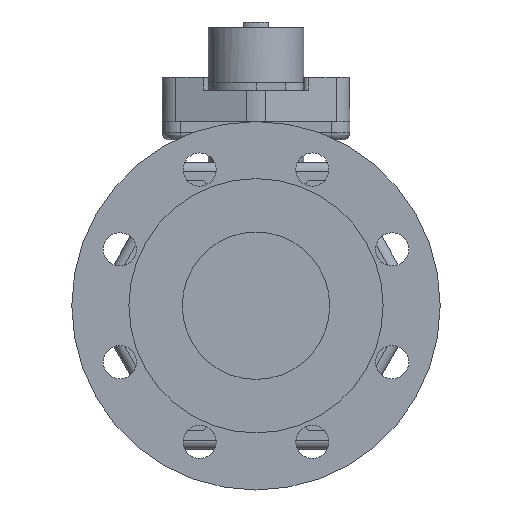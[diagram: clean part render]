
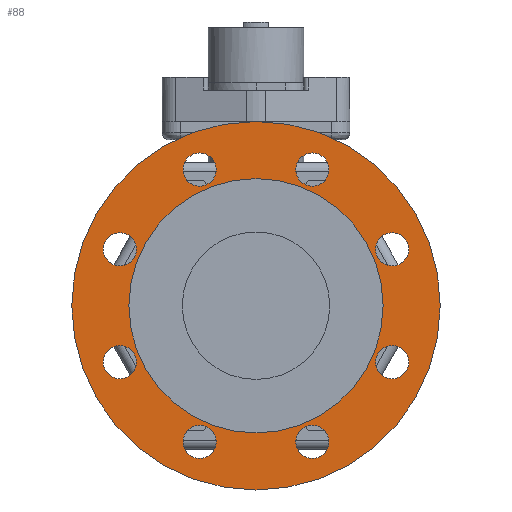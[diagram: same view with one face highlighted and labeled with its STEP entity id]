
A CAD part, left-side view. The second image highlights one B-rep face of the part: STEP entity #88.
In plain terms, the highlighted planar face has unit normal (-1, 0, 0).
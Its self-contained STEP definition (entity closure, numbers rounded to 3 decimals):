
#88=ADVANCED_FACE('',(#482,#483,#484,#485,#486,#487,#488,#489,#490,#491),#481,.T.);
#481=PLANE('',#3071);
#482=FACE_OUTER_BOUND('',#3072,.T.);
#483=FACE_BOUND('',#3073,.T.);
#484=FACE_BOUND('',#3074,.T.);
#485=FACE_BOUND('',#3075,.T.);
#486=FACE_BOUND('',#3076,.T.);
#487=FACE_BOUND('',#3077,.T.);
#488=FACE_BOUND('',#3078,.T.);
#489=FACE_BOUND('',#3079,.T.);
#490=FACE_BOUND('',#3080,.T.);
#491=FACE_BOUND('',#3081,.T.);
#3068=CARTESIAN_POINT('',(-152.5,-183.205,-210.));
#3069=DIRECTION('',(-1.,0.,0.));
#3070=DIRECTION('',(0.,0.,1.));
#3071=AXIS2_PLACEMENT_3D('',#3068,#3069,#3070);
#3072=EDGE_LOOP('',(#4618,#4619));
#3073=EDGE_LOOP('',(#4620,#4621));
#3074=EDGE_LOOP('',(#4622,#4623));
#3075=EDGE_LOOP('',(#4624,#4625));
#3076=EDGE_LOOP('',(#4626,#4627));
#3077=EDGE_LOOP('',(#4628,#4629));
#3078=EDGE_LOOP('',(#4630,#4631));
#3079=EDGE_LOOP('',(#4632,#4633));
#3080=EDGE_LOOP('',(#4634,#4635));
#3081=EDGE_LOOP('',(#4636,#4637));
#4618=ORIENTED_EDGE('',*,*,#5942,.T.);
#4619=ORIENTED_EDGE('',*,*,#5943,.T.);
#4620=ORIENTED_EDGE('',*,*,#5944,.F.);
#4621=ORIENTED_EDGE('',*,*,#5945,.F.);
#4622=ORIENTED_EDGE('',*,*,#5946,.F.);
#4623=ORIENTED_EDGE('',*,*,#5947,.F.);
#4624=ORIENTED_EDGE('',*,*,#5948,.F.);
#4625=ORIENTED_EDGE('',*,*,#5949,.F.);
#4626=ORIENTED_EDGE('',*,*,#5950,.F.);
#4627=ORIENTED_EDGE('',*,*,#5951,.F.);
#4628=ORIENTED_EDGE('',*,*,#5952,.F.);
#4629=ORIENTED_EDGE('',*,*,#5953,.F.);
#4630=ORIENTED_EDGE('',*,*,#5954,.F.);
#4631=ORIENTED_EDGE('',*,*,#5955,.F.);
#4632=ORIENTED_EDGE('',*,*,#5956,.F.);
#4633=ORIENTED_EDGE('',*,*,#5957,.F.);
#4634=ORIENTED_EDGE('',*,*,#5958,.F.);
#4635=ORIENTED_EDGE('',*,*,#5959,.F.);
#4636=ORIENTED_EDGE('',*,*,#5960,.F.);
#4637=ORIENTED_EDGE('',*,*,#5961,.F.);
#5942=EDGE_CURVE('',#7341,#7342,#7343,.T.);
#5943=EDGE_CURVE('',#7342,#7341,#7349,.T.);
#5944=EDGE_CURVE('',#7355,#7356,#7357,.T.);
#5945=EDGE_CURVE('',#7356,#7355,#7363,.T.);
#5946=EDGE_CURVE('',#7369,#7370,#7371,.T.);
#5947=EDGE_CURVE('',#7370,#7369,#7377,.T.);
#5948=EDGE_CURVE('',#7383,#7384,#7385,.T.);
#5949=EDGE_CURVE('',#7384,#7383,#7391,.T.);
#5950=EDGE_CURVE('',#7397,#7398,#7399,.T.);
#5951=EDGE_CURVE('',#7398,#7397,#7405,.T.);
#5952=EDGE_CURVE('',#7411,#7412,#7413,.T.);
#5953=EDGE_CURVE('',#7412,#7411,#7419,.T.);
#5954=EDGE_CURVE('',#7425,#7426,#7427,.T.);
#5955=EDGE_CURVE('',#7426,#7425,#7433,.T.);
#5956=EDGE_CURVE('',#7439,#7440,#7441,.T.);
#5957=EDGE_CURVE('',#7440,#7439,#7447,.T.);
#5958=EDGE_CURVE('',#7453,#7454,#7455,.T.);
#5959=EDGE_CURVE('',#7454,#7453,#7461,.T.);
#5960=EDGE_CURVE('',#7467,#7468,#7469,.T.);
#5961=EDGE_CURVE('',#7468,#7467,#7475,.T.);
#7341=VERTEX_POINT('',#11475);
#7342=VERTEX_POINT('',#11476);
#7343=CIRCLE('',#11480,100.);
#7349=CIRCLE('',#11484,100.);
#7355=VERTEX_POINT('',#11485);
#7356=VERTEX_POINT('',#11486);
#7357=CIRCLE('',#11490,69.);
#7363=CIRCLE('',#11494,69.);
#7369=VERTEX_POINT('',#11495);
#7370=VERTEX_POINT('',#11496);
#7371=CIRCLE('',#11500,9.);
#7377=CIRCLE('',#11504,9.);
#7383=VERTEX_POINT('',#11505);
#7384=VERTEX_POINT('',#11506);
#7385=CIRCLE('',#11510,9.);
#7391=CIRCLE('',#11514,9.);
#7397=VERTEX_POINT('',#11515);
#7398=VERTEX_POINT('',#11516);
#7399=CIRCLE('',#11520,9.);
#7405=CIRCLE('',#11524,9.);
#7411=VERTEX_POINT('',#11525);
#7412=VERTEX_POINT('',#11526);
#7413=CIRCLE('',#11530,9.);
#7419=CIRCLE('',#11534,9.);
#7425=VERTEX_POINT('',#11535);
#7426=VERTEX_POINT('',#11536);
#7427=CIRCLE('',#11540,9.);
#7433=CIRCLE('',#11544,9.);
#7439=VERTEX_POINT('',#11545);
#7440=VERTEX_POINT('',#11546);
#7441=CIRCLE('',#11550,9.);
#7447=CIRCLE('',#11554,9.);
#7453=VERTEX_POINT('',#11555);
#7454=VERTEX_POINT('',#11556);
#7455=CIRCLE('',#11560,9.);
#7461=CIRCLE('',#11564,9.);
#7467=VERTEX_POINT('',#11565);
#7468=VERTEX_POINT('',#11566);
#7469=CIRCLE('',#11570,9.);
#7475=CIRCLE('',#11574,9.);
#11475=CARTESIAN_POINT('',(-152.5,0.,100.));
#11476=CARTESIAN_POINT('',(-152.5,0.,-100.));
#11477=CARTESIAN_POINT('',(-152.5,0.,0.));
#11478=DIRECTION('',(-1.,0.,0.));
#11479=DIRECTION('',(0.,0.,1.));
#11480=AXIS2_PLACEMENT_3D('',#11477,#11478,#11479);
#11481=CARTESIAN_POINT('',(-152.5,0.,0.));
#11482=DIRECTION('',(-1.,0.,0.));
#11483=DIRECTION('',(0.,0.,1.));
#11484=AXIS2_PLACEMENT_3D('',#11481,#11482,#11483);
#11485=CARTESIAN_POINT('',(-152.5,0.,-69.));
#11486=CARTESIAN_POINT('',(-152.5,0.,69.));
#11487=CARTESIAN_POINT('',(-152.5,0.,0.));
#11488=DIRECTION('',(-1.,0.,0.));
#11489=DIRECTION('',(0.,0.,1.));
#11490=AXIS2_PLACEMENT_3D('',#11487,#11488,#11489);
#11491=CARTESIAN_POINT('',(-152.5,0.,0.));
#11492=DIRECTION('',(-1.,0.,0.));
#11493=DIRECTION('',(0.,0.,1.));
#11494=AXIS2_PLACEMENT_3D('',#11491,#11492,#11493);
#11495=CARTESIAN_POINT('',(-152.5,30.615,64.91));
#11496=CARTESIAN_POINT('',(-152.5,30.615,82.91));
#11497=CARTESIAN_POINT('',(-152.5,30.615,73.91));
#11498=DIRECTION('',(-1.,0.,0.));
#11499=DIRECTION('',(0.,0.,1.));
#11500=AXIS2_PLACEMENT_3D('',#11497,#11498,#11499);
#11501=CARTESIAN_POINT('',(-152.5,30.615,73.91));
#11502=DIRECTION('',(-1.,0.,0.));
#11503=DIRECTION('',(0.,0.,1.));
#11504=AXIS2_PLACEMENT_3D('',#11501,#11502,#11503);
#11505=CARTESIAN_POINT('',(-152.5,-30.615,64.91));
#11506=CARTESIAN_POINT('',(-152.5,-30.615,82.91));
#11507=CARTESIAN_POINT('',(-152.5,-30.615,73.91));
#11508=DIRECTION('',(-1.,0.,0.));
#11509=DIRECTION('',(0.,0.,1.));
#11510=AXIS2_PLACEMENT_3D('',#11507,#11508,#11509);
#11511=CARTESIAN_POINT('',(-152.5,-30.615,73.91));
#11512=DIRECTION('',(-1.,0.,0.));
#11513=DIRECTION('',(0.,0.,1.));
#11514=AXIS2_PLACEMENT_3D('',#11511,#11512,#11513);
#11515=CARTESIAN_POINT('',(-152.5,-73.91,21.615));
#11516=CARTESIAN_POINT('',(-152.5,-73.91,39.615));
#11517=CARTESIAN_POINT('',(-152.5,-73.91,30.615));
#11518=DIRECTION('',(-1.,0.,0.));
#11519=DIRECTION('',(0.,0.,1.));
#11520=AXIS2_PLACEMENT_3D('',#11517,#11518,#11519);
#11521=CARTESIAN_POINT('',(-152.5,-73.91,30.615));
#11522=DIRECTION('',(-1.,0.,0.));
#11523=DIRECTION('',(0.,0.,1.));
#11524=AXIS2_PLACEMENT_3D('',#11521,#11522,#11523);
#11525=CARTESIAN_POINT('',(-152.5,-73.91,-39.615));
#11526=CARTESIAN_POINT('',(-152.5,-73.91,-21.615));
#11527=CARTESIAN_POINT('',(-152.5,-73.91,-30.615));
#11528=DIRECTION('',(-1.,0.,0.));
#11529=DIRECTION('',(0.,0.,1.));
#11530=AXIS2_PLACEMENT_3D('',#11527,#11528,#11529);
#11531=CARTESIAN_POINT('',(-152.5,-73.91,-30.615));
#11532=DIRECTION('',(-1.,0.,0.));
#11533=DIRECTION('',(0.,0.,1.));
#11534=AXIS2_PLACEMENT_3D('',#11531,#11532,#11533);
#11535=CARTESIAN_POINT('',(-152.5,-30.615,-82.91));
#11536=CARTESIAN_POINT('',(-152.5,-30.615,-64.91));
#11537=CARTESIAN_POINT('',(-152.5,-30.615,-73.91));
#11538=DIRECTION('',(-1.,0.,0.));
#11539=DIRECTION('',(0.,0.,1.));
#11540=AXIS2_PLACEMENT_3D('',#11537,#11538,#11539);
#11541=CARTESIAN_POINT('',(-152.5,-30.615,-73.91));
#11542=DIRECTION('',(-1.,0.,0.));
#11543=DIRECTION('',(0.,0.,1.));
#11544=AXIS2_PLACEMENT_3D('',#11541,#11542,#11543);
#11545=CARTESIAN_POINT('',(-152.5,30.615,-82.91));
#11546=CARTESIAN_POINT('',(-152.5,30.615,-64.91));
#11547=CARTESIAN_POINT('',(-152.5,30.615,-73.91));
#11548=DIRECTION('',(-1.,0.,0.));
#11549=DIRECTION('',(0.,0.,1.));
#11550=AXIS2_PLACEMENT_3D('',#11547,#11548,#11549);
#11551=CARTESIAN_POINT('',(-152.5,30.615,-73.91));
#11552=DIRECTION('',(-1.,0.,0.));
#11553=DIRECTION('',(0.,0.,1.));
#11554=AXIS2_PLACEMENT_3D('',#11551,#11552,#11553);
#11555=CARTESIAN_POINT('',(-152.5,73.91,-39.615));
#11556=CARTESIAN_POINT('',(-152.5,73.91,-21.615));
#11557=CARTESIAN_POINT('',(-152.5,73.91,-30.615));
#11558=DIRECTION('',(-1.,0.,0.));
#11559=DIRECTION('',(0.,0.,1.));
#11560=AXIS2_PLACEMENT_3D('',#11557,#11558,#11559);
#11561=CARTESIAN_POINT('',(-152.5,73.91,-30.615));
#11562=DIRECTION('',(-1.,0.,0.));
#11563=DIRECTION('',(0.,0.,1.));
#11564=AXIS2_PLACEMENT_3D('',#11561,#11562,#11563);
#11565=CARTESIAN_POINT('',(-152.5,73.91,21.615));
#11566=CARTESIAN_POINT('',(-152.5,73.91,39.615));
#11567=CARTESIAN_POINT('',(-152.5,73.91,30.615));
#11568=DIRECTION('',(-1.,0.,0.));
#11569=DIRECTION('',(0.,0.,1.));
#11570=AXIS2_PLACEMENT_3D('',#11567,#11568,#11569);
#11571=CARTESIAN_POINT('',(-152.5,73.91,30.615));
#11572=DIRECTION('',(-1.,0.,0.));
#11573=DIRECTION('',(0.,0.,1.));
#11574=AXIS2_PLACEMENT_3D('',#11571,#11572,#11573);
